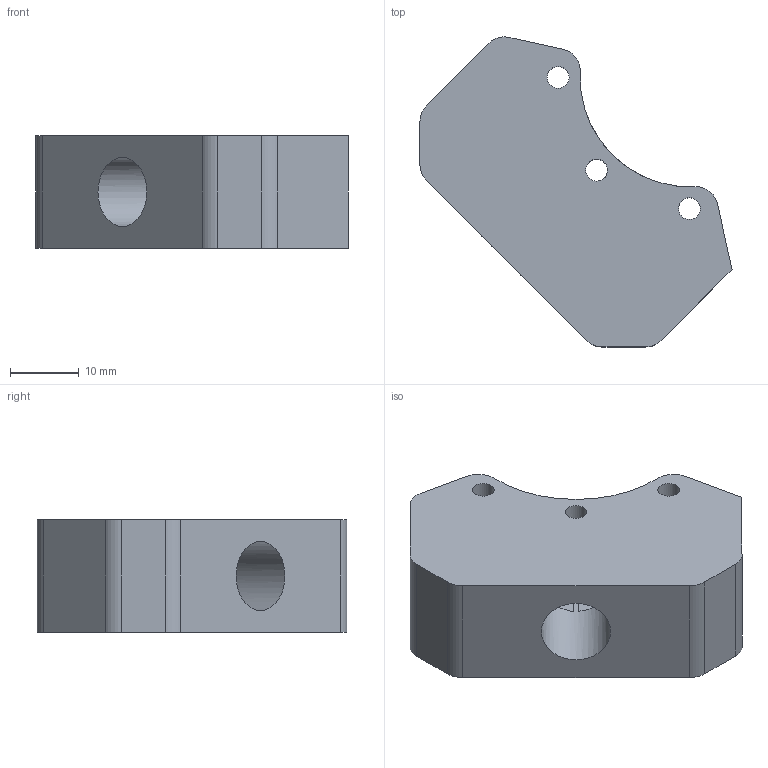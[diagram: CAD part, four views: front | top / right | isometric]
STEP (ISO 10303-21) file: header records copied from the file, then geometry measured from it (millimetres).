
FILE_DESCRIPTION(/* description */ (''),/* implementation_level */ '2;1');
FILE_NAME(/* name */ 'Lower_Leg_Mount v1.step',/* time_stamp */ '2025-10-21T12:10:42-07:00',/* author */ (''),/* organization */ (''),/* preprocessor_version */ 'ST-DEVELOPER v20.1',/* originating_system */ 'Autodesk Translation Framework v14.17.0.0',/* authorisation */ '');
FILE_SCHEMA (('AUTOMOTIVE_DESIGN { 1 0 10303 214 3 1 1 }'));
Length unit declared in the file: inch
Products named in the file (1): Lower_Leg_Mount
Bounding box: 45.31 x 45 x 16.35 mm (x, y, z)
Volume: 13658.8 mm3; surface area: 5699.7 mm2
Topology: 1 solids, 1 shells, 35 faces, 108 edges, 72 vertices
Faces by surface type: cylinder 22, plane 13
Full cylindrical faces by diameter (mm): 3.175 x6, 10.03 x1
Entity records: 1334 total; most frequent: CARTESIAN_POINT 272, DIRECTION 220, ORIENTED_EDGE 216, EDGE_CURVE 108, AXIS2_PLACEMENT_3D 83, VERTEX_POINT 72, LINE 54, VECTOR 54
